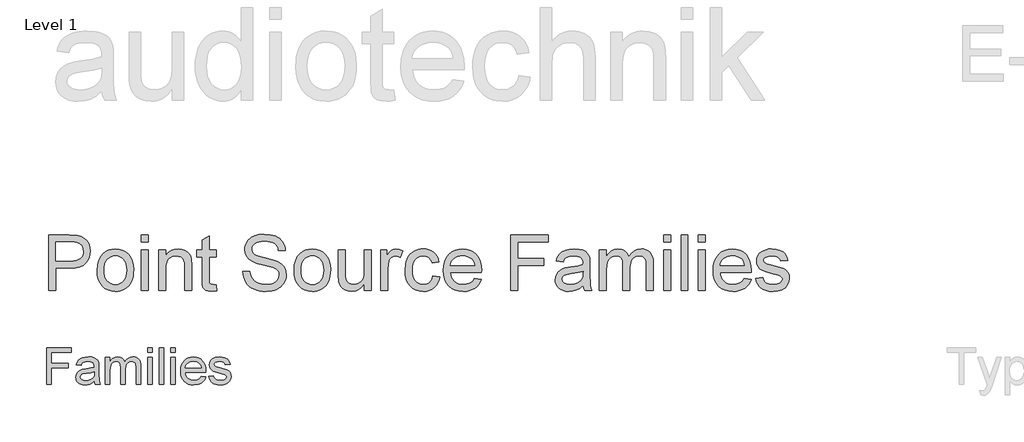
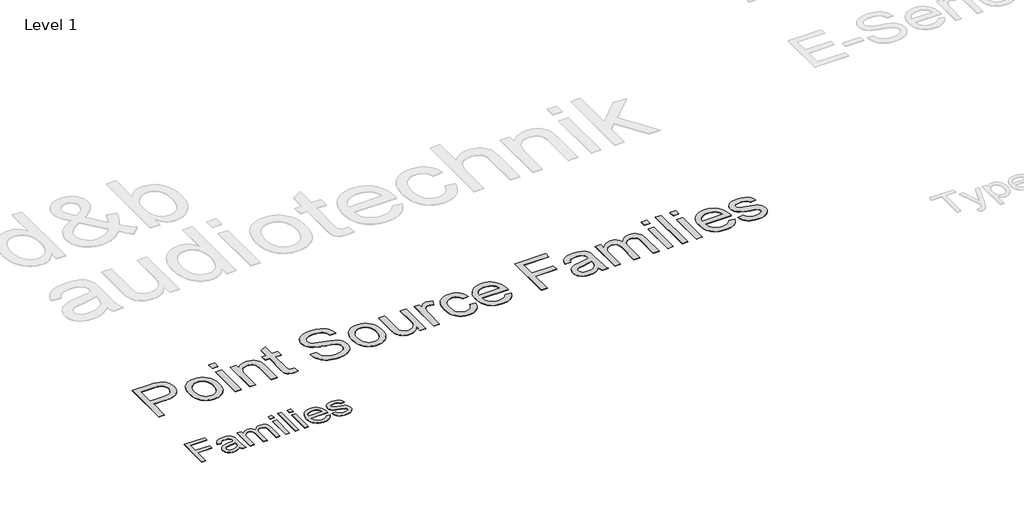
# One storey, part 4 of 6: 2 proxies.
"""IFC4 building model written with IfcOpenShell, lengths in millimetres."""

from ifc_helpers import new_model, si_unit, origin, origin_with_axes, place, context, project, spatial, polyline, outline, extrude, element, save

model = new_model("IFC4")

# Units and contexts
model_context = context("Model", 3, world=origin())
ifc_project = project(units=[si_unit("LENGTHUNIT", "METRE", prefix="MILLI")], contexts=[model_context])

# Site, building, storey
site = spatial("IfcSite", under=ifc_project)
building = spatial("IfcBuilding", under=site)
storey = spatial("IfcBuildingStorey", under=building, Name="Level 1", Elevation=0.0)

# Proxies
placement = place(None, origin())
element("IfcBuildingElementProxy", 1, Name="400mm Arial", ObjectType="400mm Arial", at=placement, inside=storey, context=model_context, shape_type="SweptSolid", body=[
    extrude(outline(polyline([(-21056.720891, 17351.3054836), (-21056.720891, 17743.0630593), (-20793.5087698, 17743.0630593), (-20793.5087698, 17694.0933624), (-21007.7511941, 17694.0933624), (-21007.7511941, 17577.7903321), (-20824.1148304, 17577.7903321), (-20824.1148304, 17528.8206351), (-21007.7511941, 17528.8206351), (-21007.7511941, 17351.3054836), (-21056.720891, 17351.3054836)])), origin_with_axes(), (0.0, 0.0, 1.0), 5.0),
    extrude(outline(polyline([(-20548.660285, 17388.0327563), (-20572.0571836, 17367.97144), (-20596.1475009, 17354.8443093), (-20621.4811893, 17347.5992809), (-20648.6082016, 17345.1842715), (-20670.4120309, 17346.6368638), (-20689.5318522, 17350.9946408), (-20705.9676654, 17358.2576024), (-20719.7194706, 17368.4257487), (-20730.5780466, 17380.8534831), (-20738.3341723, 17394.895209), (-20742.9878477, 17410.5509263), (-20744.5390729, 17427.8206351), (-20742.1957963, 17448.1210612), (-20735.1659668, 17466.5564305), (-20724.3223352, 17482.3376805), (-20710.5376524, 17494.6757487), (-20676.2493001, 17510.7439305), (-20633.879035, 17518.1085139), (-20583.8094327, 17525.855673), (-20548.9472168, 17534.9418472), (-20548.660285, 17545.8452563), (-20552.0317338, 17567.6998965), (-20562.1460804, 17581.9986654), (-20584.7658721, 17592.6151427), (-20616.2805501, 17596.1539684), (-20645.4519516, 17593.7987364), (-20665.8241107, 17586.7330404), (-20679.7163929, 17573.6656872), (-20689.4481638, 17553.3054836), (-20738.4178607, 17559.4266957), (-20729.9175056, 17586.2069987), (-20717.2327282, 17607.2486654), (-20699.1799346, 17623.3407582), (-20674.5755312, 17635.2723396), (-20644.4835568, 17642.660834), (-20609.9680501, 17645.1236654), (-20576.8632916, 17642.9477658), (-20550.6209857, 17636.4200669), (-20530.8346458, 17626.6046076), (-20517.097785, 17614.5654268), (-20507.9876997, 17599.6808387), (-20502.0816865, 17581.3291578), (-20499.690588, 17538.480673), (-20499.690588, 17477.5554836), (-20497.2038456, 17392.4801995), (-20487.4481638, 17351.3054836), (-20536.4178607, 17351.3054836), (-20544.2606638, 17368.3301048), (-20548.660285, 17388.0327563)]), holes=[polyline([(-20548.660285, 17485.9721502), (-20581.5618001, 17477.8185044), (-20627.6621789, 17470.9560518), (-20669.7933342, 17463.0176048), (-20680.7565208, 17457.5898112), (-20688.8743001, 17450.105673), (-20693.8956069, 17441.1390536), (-20695.5693759, 17431.2638169), (-20691.9229507, 17416.7020271), (-20680.9836751, 17404.7704457), (-20662.990659, 17396.8080877), (-20638.1830122, 17394.1539684), (-20611.8809289, 17397.0830641), (-20588.6394516, 17405.870351), (-20569.7975956, 17418.8181493), (-20556.6943759, 17434.228779), (-20550.8840066, 17450.105673), (-20548.9472168, 17472.103779), (-20548.660285, 17485.9721502)])]), origin_with_axes(), (0.0, 0.0, 1.0), 5.0),
    extrude(outline(polyline([(-20432.3572547, 17351.3054836), (-20432.3572547, 17639.0024533), (-20383.3875577, 17639.0024533), (-20383.3875577, 17591.6587033), (-20368.658391, 17613.405744), (-20349.720891, 17630.4423207), (-20327.2206543, 17641.4533292), (-20301.8032774, 17645.1236654), (-20274.5686657, 17641.3815963), (-20252.7379365, 17630.1553889), (-20236.4306448, 17612.1862838), (-20225.7663456, 17588.2155215), (-20207.9167954, 17613.1128344), (-20187.5565918, 17630.8966294), (-20164.6857348, 17641.5669064), (-20139.3042244, 17645.1236654), (-20119.7002057, 17643.6441732), (-20102.4932632, 17639.2056966), (-20087.683397, 17631.8082357), (-20075.2706069, 17621.4517904), (-20065.4581365, 17608.0168058), (-20058.4492291, 17591.3837269), (-20054.2438846, 17571.5525539), (-20052.8421032, 17548.5232866), (-20052.8421032, 17351.3054836), (-20101.8118001, 17351.3054836), (-20101.8118001, 17527.4816199), (-20106.3548872, 17568.369404), (-20112.7391202, 17579.6434334), (-20122.8056448, 17588.5024533), (-20135.7534431, 17594.2410896), (-20150.7814971, 17596.1539684), (-20177.3107348, 17591.2522165), (-20198.9382206, 17576.5469608), (-20207.3279874, 17565.2669537), (-20213.320678, 17551.03394), (-20218.1148304, 17513.7088927), (-20218.1148304, 17351.3054836), (-20267.0845274, 17351.3054836), (-20267.0845274, 17532.9333245), (-20269.9179791, 17560.6222449), (-20278.4183342, 17580.3727184), (-20293.3746552, 17592.2086559), (-20315.5760047, 17596.1539684), (-20334.4417717, 17593.5237601), (-20351.8250577, 17585.6331351), (-20366.1716486, 17572.6733813), (-20375.9273304, 17554.8357866), (-20381.5225009, 17530.0879173), (-20383.3875577, 17496.3973396), (-20383.3875577, 17351.3054836), (-20432.3572547, 17351.3054836)])), origin_with_axes(), (0.0, 0.0, 1.0), 5.0),
    extrude(outline(polyline([(-19979.3875577, 17351.3054836), (-19979.3875577, 17639.0024533), (-19930.4178607, 17639.0024533), (-19930.4178607, 17351.3054836), (-19979.3875577, 17351.3054836)])), origin_with_axes(), (0.0, 0.0, 1.0), 5.0),
    extrude(outline(polyline([(-19979.3875577, 17694.0933624), (-19979.3875577, 17743.0630593), (-19930.4178607, 17743.0630593), (-19930.4178607, 17694.0933624), (-19979.3875577, 17694.0933624)])), origin_with_axes(), (0.0, 0.0, 1.0), 5.0),
    extrude(outline(polyline([(-19856.9633153, 17351.3054836), (-19856.9633153, 17743.0630593), (-19807.9936183, 17743.0630593), (-19807.9936183, 17351.3054836), (-19856.9633153, 17351.3054836)])), origin_with_axes(), (0.0, 0.0, 1.0), 5.0),
    extrude(outline(polyline([(-19734.5390729, 17351.3054836), (-19734.5390729, 17639.0024533), (-19685.5693759, 17639.0024533), (-19685.5693759, 17351.3054836), (-19734.5390729, 17351.3054836)])), origin_with_axes(), (0.0, 0.0, 1.0), 5.0),
    extrude(outline(polyline([(-19734.5390729, 17694.0933624), (-19734.5390729, 17743.0630593), (-19685.5693759, 17743.0630593), (-19685.5693759, 17694.0933624), (-19734.5390729, 17694.0933624)])), origin_with_axes(), (0.0, 0.0, 1.0), 5.0),
    extrude(outline(polyline([(-19410.6886941, 17437.0024533), (-19362.6754365, 17430.8812411), (-19370.0370309, 17411.6508316), (-19379.975034, 17394.7039211), (-19392.4894457, 17380.0405096), (-19407.580266, 17367.6605972), (-19425.0920736, 17357.8272047), (-19444.8694469, 17350.8033529), (-19491.220891, 17345.1842715), (-19521.605775, 17347.6082475), (-19548.6789876, 17354.8801758), (-19572.4405288, 17367.0000563), (-19592.8903986, 17383.9678889), (-19609.3351784, 17405.3114317), (-19621.0814497, 17430.5584429), (-19628.1292125, 17459.7089223), (-19630.4784668, 17492.7628699), (-19628.1053015, 17526.937645), (-19620.9858058, 17557.0595082), (-19609.1199796, 17583.1284594), (-19592.5078229, 17605.1444987), (-19572.1117528, 17622.6353841), (-19548.8941865, 17635.1288737), (-19522.855124, 17642.6249675), (-19493.9945653, 17645.1236654), (-19466.0635461, 17642.6309452), (-19440.8045795, 17635.1527847), (-19418.2176654, 17622.6891839), (-19398.3028039, 17605.2401427), (-19382.0463231, 17583.2719253), (-19370.4345511, 17557.2507961), (-19363.4674879, 17527.1767549), (-19361.1451335, 17493.0498018), (-19361.4320653, 17479.8509381), (-19581.5087698, 17479.8509381), (-19578.6723292, 17460.3096858), (-19573.0323257, 17443.1953983), (-19564.5887592, 17428.5080759), (-19553.3416297, 17416.2477184), (-19524.9234242, 17399.6774059), (-19490.2644516, 17394.1539684), (-19464.2014782, 17396.7124438), (-19442.2511941, 17404.3878699), (-19424.4135994, 17417.6584665), (-19410.6886941, 17437.0024533)]), holes=[polyline([(-19581.5087698, 17528.8206351), (-19410.1148304, 17528.8206351), (-19416.7381732, 17554.6923207), (-19429.721838, 17573.199423), (-19443.076123, 17583.2420366), (-19458.2715539, 17590.4153321), (-19494.1858532, 17596.1539684), (-19527.1949677, 17591.5750148), (-19554.4893569, 17577.838154), (-19573.4627234, 17556.4258671), (-19581.5087698, 17528.8206351)])]), origin_with_axes(), (0.0, 0.0, 1.0), 5.0),
    extrude(outline(polyline([(-19330.5390729, 17437.0024533), (-19281.5693759, 17443.1236654), (-19273.8461278, 17422.1776427), (-19258.9017622, 17406.7789684), (-19236.6406354, 17397.3102184), (-19206.9671032, 17394.1539684), (-19177.6522357, 17397.0471976), (-19157.0409668, 17405.7268851), (-19144.8463645, 17418.3040631), (-19140.7814971, 17432.8897639), (-19144.8702755, 17445.371298), (-19157.1366107, 17454.8878699), (-19207.5409668, 17468.8518851), (-19281.2824441, 17492.8106919), (-19299.9449677, 17504.8498728), (-19313.4666297, 17520.7865442), (-19321.680053, 17539.6044893), (-19324.4178607, 17560.2874911), (-19322.2180501, 17579.2608576), (-19315.6186183, 17596.775654), (-19305.2173399, 17612.1384618), (-19291.6119895, 17624.6558624), (-19260.4798872, 17639.1459192), (-19218.3487319, 17645.1236654), (-19186.4753891, 17642.7206114), (-19158.7625577, 17635.5114495), (-19136.4775198, 17624.2015536), (-19120.8875577, 17609.496298), (-19110.5580122, 17590.3077326), (-19104.0542244, 17565.5479078), (-19153.0239213, 17559.4266957), (-19159.2049109, 17574.8373254), (-19171.4353797, 17586.4461086), (-19189.8348825, 17593.7270035), (-19214.5229744, 17596.1539684), (-19242.6422925, 17593.8346029), (-19261.3885047, 17586.8765063), (-19271.933249, 17576.8338927), (-19275.4481638, 17565.260976), (-19269.6138835, 17551.010029), (-19251.345891, 17540.2022639), (-19209.1669138, 17529.7770745), (-19137.2904933, 17506.7268851), (-19118.3051713, 17495.7039211), (-19103.9107585, 17480.6160896), (-19094.8365397, 17461.4155688), (-19091.8118001, 17438.0545366), (-19095.3625814, 17413.9044419), (-19106.0149251, 17391.1890063), (-19123.3623446, 17371.6895982), (-19146.9983532, 17357.1875858), (-19175.5480691, 17348.1851), (-19207.6366107, 17345.1842715), (-19233.9924938, 17346.630886), (-19257.0127944, 17350.9707298), (-19276.6975127, 17358.2038027), (-19293.0466486, 17368.3301048), (-19306.4009336, 17381.3018141), (-19317.1010994, 17397.0711086), (-19325.1471458, 17415.6379883), (-19330.5390729, 17437.0024533)])), origin_with_axes(), (0.0, 0.0, 1.0), 5.0),
])
element("IfcBuildingElementProxy", 2, Name="600mm Arial", ObjectType="600mm Arial", at=placement, inside=storey, context=model_context, shape_type="SweptSolid", body=[
    extrude(outline(polyline([(-21034.9539913, 18351.3054836), (-21034.9539913, 18942.0747143), (-20816.0116836, 18942.0747143), (-20765.0261067, 18940.6684643), (-20727.7424528, 18936.4497143), (-20688.3854817, 18925.938897), (-20655.9876451, 18908.829522), (-20629.8999047, 18884.346349), (-20609.473222, 18851.7141374), (-20596.2761067, 18813.2225509), (-20591.8770682, 18771.1612528), (-20594.8473206, 18734.8962288), (-20603.7580778, 18701.533849), (-20618.6093398, 18671.0741134), (-20639.4011067, 18643.517022), (-20667.9452773, 18620.674474), (-20706.0537509, 18604.3583682), (-20753.7265273, 18594.5687047), (-20810.9636067, 18591.3054836), (-20961.1078374, 18591.3054836), (-20961.1078374, 18351.3054836), (-21034.9539913, 18351.3054836)]), holes=[polyline([(-20961.1078374, 18665.1516374), (-20806.6366836, 18665.1516374), (-20771.1198567, 18666.846349), (-20741.1559143, 18671.9304836), (-20716.7448567, 18680.4040413), (-20697.8866836, 18692.267022), (-20683.8151692, 18707.2039211), (-20673.7640874, 18724.8992336), (-20667.7334384, 18745.3529595), (-20665.723222, 18768.565099), (-20670.4648086, 18801.7381759), (-20684.6895682, 18829.7189451), (-20706.630674, 18850.7766374), (-20734.521299, 18863.1804836), (-20763.0068759, 18866.9665413), (-20808.3674528, 18868.2285605), (-20961.1078374, 18868.2285605), (-20961.1078374, 18665.1516374)])]), origin_with_axes(), (0.0, 0.0, 1.0), 5.0),
    extrude(outline(polyline([(-20518.0309143, 18568.2285605), (-20514.0375249, 18624.4154595), (-20502.0573567, 18672.8319259), (-20482.0904095, 18713.4779595), (-20454.1366836, 18746.3535605), (-20425.9936547, 18767.3661807), (-20394.9299528, 18782.3751951), (-20360.9455778, 18791.3806038), (-20324.0405297, 18794.3824066), (-20283.2998446, 18790.7270581), (-20246.4624047, 18779.7610124), (-20213.52821, 18761.4842696), (-20184.4972605, 18735.8968297), (-20160.8028494, 18703.8640773), (-20143.8782701, 18666.251397), (-20133.7235225, 18623.0587889), (-20130.3386067, 18574.2862528), (-20131.8350009, 18534.7580076), (-20136.3241836, 18499.6828874), (-20143.8061547, 18469.0608922), (-20154.2809143, 18442.892022), (-20167.6177533, 18420.2883562), (-20183.6859624, 18400.361974), (-20202.4855417, 18383.1128754), (-20224.0164913, 18368.5410605), (-20247.4404696, 18356.9620341), (-20271.9191355, 18348.6913009), (-20297.4524889, 18343.728861), (-20324.0405297, 18342.0747143), (-20365.3761667, 18345.7165413), (-20402.5561547, 18356.642022), (-20435.5804937, 18374.8511566), (-20464.4491836, 18400.3439451), (-20487.8911908, 18432.6876951), (-20504.6354817, 18471.4497143), (-20514.6820562, 18516.6300028), (-20518.0309143, 18568.2285605)]), holes=[polyline([(-20444.1847605, 18568.3727913), (-20442.0483422, 18532.5539812), (-20435.6390874, 18501.5398586), (-20424.9569961, 18475.3304235), (-20410.0020682, 18453.9256759), (-20391.8109624, 18437.2985725), (-20371.4203374, 18425.4220701), (-20348.8301932, 18418.2961687), (-20324.0405297, 18415.9208682), (-20299.3770682, 18418.3096903), (-20276.8770682, 18425.4761566), (-20256.5405297, 18437.4202672), (-20238.3674528, 18454.142022), (-20223.4125249, 18475.7586086), (-20212.7304336, 18502.3872143), (-20206.3211788, 18534.0278393), (-20204.1847605, 18570.6804836), (-20206.3347004, 18605.3634764), (-20212.7845201, 18635.5663009), (-20223.5342196, 18661.2889571), (-20238.583799, 18682.5314451), (-20256.8244841, 18699.1585485), (-20277.1475009, 18711.0350509), (-20299.5528494, 18718.1609523), (-20324.0405297, 18720.5362528), (-20348.8301932, 18718.1699667), (-20371.4203374, 18711.0711086), (-20391.8109624, 18699.2396783), (-20410.0020682, 18682.6756759), (-20424.9569961, 18661.3340292), (-20435.6390874, 18635.1696663), (-20442.0483422, 18604.1825869), (-20444.1847605, 18568.3727913)])]), origin_with_axes(), (0.0, 0.0, 1.0), 5.0),
    extrude(outline(polyline([(-20047.2616836, 18868.2285605), (-20047.2616836, 18942.0747143), (-19973.4155297, 18942.0747143), (-19973.4155297, 18868.2285605), (-20047.2616836, 18868.2285605)])), origin_with_axes(), (0.0, 0.0, 1.0), 5.0),
    extrude(outline(polyline([(-20047.2616836, 18351.3054836), (-20047.2616836, 18785.1516374), (-19973.4155297, 18785.1516374), (-19973.4155297, 18351.3054836), (-20047.2616836, 18351.3054836)])), origin_with_axes(), (0.0, 0.0, 1.0), 5.0),
    extrude(outline(polyline([(-19862.646299, 18351.3054836), (-19862.646299, 18785.1516374), (-19788.8001451, 18785.1516374), (-19788.8001451, 18724.5747143), (-19763.145097, 18755.1155797), (-19732.333799, 18776.9304836), (-19696.3662509, 18790.0194259), (-19655.2424528, 18794.3824066), (-19618.8422124, 18790.8667816), (-19585.5068759, 18780.3199066), (-19557.7063951, 18764.0578874), (-19537.910722, 18743.3968297), (-19524.4792317, 18718.3908201), (-19515.771299, 18689.0939451), (-19511.8770682, 18617.6997143), (-19511.8770682, 18351.3054836), (-19585.723222, 18351.3054836), (-19585.723222, 18607.7477913), (-19587.8506259, 18645.9328874), (-19594.2328374, 18673.0843297), (-19606.005674, 18692.5374547), (-19624.3049528, 18707.627599), (-19647.7604817, 18717.3090893), (-19675.0020682, 18720.5362528), (-19697.4254456, 18718.7243538), (-19718.2532701, 18713.2886566), (-19737.4855417, 18704.2291615), (-19755.1222605, 18691.5458682), (-19769.856335, 18673.7964691), (-19780.380674, 18649.5386566), (-19786.6952773, 18618.7724307), (-19788.8001451, 18581.4977913), (-19788.8001451, 18351.3054836), (-19862.646299, 18351.3054836)])), origin_with_axes(), (0.0, 0.0, 1.0), 5.0),
    extrude(outline(polyline([(-19253.4155297, 18412.892022), (-19244.1847605, 18349.142022), (-19299.4251451, 18342.0747143), (-19334.8698567, 18345.1396182), (-19361.3001451, 18354.3343297), (-19379.9780297, 18368.5050028), (-19392.1655297, 18386.4977913), (-19398.8722605, 18417.3992336), (-19401.1078374, 18470.2958682), (-19401.1078374, 18711.3054836), (-19456.4924528, 18711.3054836), (-19456.4924528, 18785.1516374), (-19401.1078374, 18785.1516374), (-19401.1078374, 18890.5843297), (-19327.2616836, 18933.9977913), (-19327.2616836, 18785.1516374), (-19253.4155297, 18785.1516374), (-19253.4155297, 18711.3054836), (-19327.2616836, 18711.3054836), (-19327.2616836, 18472.4593297), (-19323.3674528, 18434.3824066), (-19310.7472605, 18420.8968297), (-19300.0922124, 18417.1648586), (-19285.5789913, 18415.9208682), (-19253.4155297, 18412.892022)])), origin_with_axes(), (0.0, 0.0, 1.0), 5.0),
    extrude(outline(polyline([(-18967.2616836, 18554.3824066), (-18893.4155297, 18554.3824066), (-18884.941972, 18513.4028393), (-18869.6174528, 18480.4641374), (-18845.7112028, 18454.3223105), (-18811.4924528, 18433.7333682), (-18769.6655297, 18420.3739932), (-18722.9347605, 18415.9208682), (-18681.7929336, 18419.2922624), (-18645.771299, 18429.4064451), (-18616.582597, 18445.4160605), (-18595.9395682, 18466.4737528), (-18583.661924, 18490.6504355), (-18579.5693759, 18516.017022), (-18582.6342797, 18540.7345701), (-18591.8289913, 18562.0987528), (-18610.5068759, 18580.3259163), (-18642.021299, 18595.6324066), (-18749.5453374, 18623.829522), (-18820.1282701, 18642.4893778), (-18865.2905297, 18660.2477913), (-18902.051347, 18685.0915413), (-18928.1030297, 18715.1997143), (-18943.6258663, 18749.923272), (-18948.8001451, 18788.6131759), (-18947.200085, 18810.603861), (-18942.3999047, 18831.8643778), (-18934.3996042, 18852.3947264), (-18923.1991836, 18872.1949066), (-18908.9248446, 18890.4581278), (-18891.7027893, 18906.377599), (-18871.5330177, 18919.9533201), (-18848.4155297, 18931.1852913), (-18796.4563951, 18946.2754355), (-18738.9443759, 18951.3054836), (-18676.6366836, 18946.0410605), (-18622.1174528, 18930.2477913), (-18598.2652893, 18918.4839691), (-18577.333799, 18904.2501951), (-18559.3229817, 18887.5464691), (-18544.2328374, 18868.3727913), (-18532.1805538, 18847.2880557), (-18523.2833182, 18824.8511566), (-18517.5411307, 18801.0620941), (-18514.9539913, 18775.9208682), (-18588.8001451, 18775.9208682), (-18593.740049, 18799.4845701), (-18602.3578374, 18819.9833682), (-18614.6535105, 18837.4172624), (-18630.6270682, 18851.7862528), (-18650.5759865, 18863.018224), (-18674.7977413, 18871.0410605), (-18703.2923326, 18875.8547624), (-18736.0597605, 18877.4593297), (-18769.8728615, 18875.8727913), (-18798.7640874, 18871.1131759), (-18822.7334384, 18863.1804836), (-18841.7809143, 18852.0747143), (-18856.2941355, 18838.7243538), (-18866.660722, 18824.0578874), (-18872.880674, 18808.0753153), (-18874.9539913, 18790.7766374), (-18869.0765874, 18762.3992336), (-18851.4443759, 18739.5747143), (-18835.254472, 18729.424474), (-18809.7616836, 18719.1660605), (-18730.8674528, 18698.3247143), (-18649.4491836, 18678.5290413), (-18600.1943759, 18661.2574066), (-18558.0970201, 18634.4665413), (-18541.8214792, 18618.7183441), (-18528.7280297, 18601.4016374), (-18518.6634264, 18582.6065653), (-18511.474424, 18562.423272), (-18505.723222, 18517.892022), (-18507.3773687, 18494.7925629), (-18512.3398086, 18472.3691855), (-18520.6105417, 18450.6218898), (-18532.1895682, 18429.5506759), (-18546.8740634, 18409.971349), (-18564.4612028, 18392.6997143), (-18584.9509865, 18377.735772), (-18608.3434143, 18365.079522), (-18633.9578975, 18355.0149187), (-18661.113847, 18347.8259163), (-18720.0501451, 18342.0747143), (-18757.825085, 18343.6251951), (-18792.3999047, 18348.2766374), (-18823.7746042, 18356.0290413), (-18851.9491836, 18366.8824066), (-18877.0949167, 18380.8547624), (-18899.3830778, 18397.9641374), (-18918.8136667, 18418.2105316), (-18935.3866836, 18441.5939451), (-18948.7370442, 18467.3571663), (-18958.4996643, 18494.7429836), (-18964.6745442, 18523.751397), (-18967.2616836, 18554.3824066)])), origin_with_axes(), (0.0, 0.0, 1.0), 5.0),
    extrude(outline(polyline([(-18422.646299, 18568.2285605), (-18418.6529095, 18624.4154595), (-18406.6727413, 18672.8319259), (-18386.7057942, 18713.4779595), (-18358.7520682, 18746.3535605), (-18330.6090393, 18767.3661807), (-18299.5453374, 18782.3751951), (-18265.5609624, 18791.3806038), (-18228.6559143, 18794.3824066), (-18187.9152292, 18790.7270581), (-18151.0777893, 18779.7610124), (-18118.1435946, 18761.4842696), (-18089.1126451, 18735.8968297), (-18065.4182341, 18703.8640773), (-18048.4936547, 18666.251397), (-18038.3389071, 18623.0587889), (-18034.9539913, 18574.2862528), (-18036.4503855, 18534.7580076), (-18040.9395682, 18499.6828874), (-18048.4215393, 18469.0608922), (-18058.896299, 18442.892022), (-18072.2331379, 18420.2883562), (-18088.301347, 18400.361974), (-18107.1009264, 18383.1128754), (-18128.6318759, 18368.5410605), (-18152.0558542, 18356.9620341), (-18176.5345201, 18348.6913009), (-18202.0678735, 18343.728861), (-18228.6559143, 18342.0747143), (-18269.9915514, 18345.7165413), (-18307.1715393, 18356.642022), (-18340.1958783, 18374.8511566), (-18369.0645682, 18400.3439451), (-18392.5065754, 18432.6876951), (-18409.2508663, 18471.4497143), (-18419.2974408, 18516.6300028), (-18422.646299, 18568.2285605)]), holes=[polyline([(-18348.8001451, 18568.3727913), (-18346.6637268, 18532.5539812), (-18340.254472, 18501.5398586), (-18329.5723807, 18475.3304235), (-18314.6174528, 18453.9256759), (-18296.426347, 18437.2985725), (-18276.035722, 18425.4220701), (-18253.4455778, 18418.2961687), (-18228.6559143, 18415.9208682), (-18203.9924528, 18418.3096903), (-18181.4924528, 18425.4761566), (-18161.1559143, 18437.4202672), (-18142.9828374, 18454.142022), (-18128.0279095, 18475.7586086), (-18117.3458182, 18502.3872143), (-18110.9365634, 18534.0278393), (-18108.8001451, 18570.6804836), (-18110.950085, 18605.3634764), (-18117.3999047, 18635.5663009), (-18128.1496042, 18661.2889571), (-18143.1991836, 18682.5314451), (-18161.4398687, 18699.1585485), (-18181.7628855, 18711.0350509), (-18204.1682341, 18718.1609523), (-18228.6559143, 18720.5362528), (-18253.4455778, 18718.1699667), (-18276.035722, 18711.0711086), (-18296.426347, 18699.2396783), (-18314.6174528, 18682.6756759), (-18329.5723807, 18661.3340292), (-18340.254472, 18635.1696663), (-18346.6637268, 18604.1825869), (-18348.8001451, 18568.3727913)])]), origin_with_axes(), (0.0, 0.0, 1.0), 5.0),
    extrude(outline(polyline([(-17674.9539913, 18351.3054836), (-17674.9539913, 18425.8727913), (-17701.6727413, 18389.2111326), (-17732.7905297, 18363.0242336), (-17768.3073567, 18347.3120941), (-17808.223222, 18342.0747143), (-17844.1907701, 18345.752599), (-17877.6703374, 18356.7862528), (-17905.7592797, 18373.3727913), (-17925.5549528, 18393.7093297), (-17938.8782701, 18418.408849), (-17947.5501451, 18448.0843297), (-17951.8770682, 18516.7381759), (-17951.8770682, 18785.1516374), (-17878.0309143, 18785.1516374), (-17878.0309143, 18551.4977913), (-17876.9131259, 18504.767022), (-17873.5597605, 18476.2093297), (-17862.7965393, 18451.095147), (-17844.3530297, 18432.002599), (-17819.4551932, 18419.9413009), (-17789.3289913, 18415.9208682), (-17757.4720201, 18420.0314451), (-17727.6703374, 18432.3631759), (-17703.0970201, 18451.7802432), (-17686.9251451, 18477.1468297), (-17677.9467797, 18511.8884163), (-17674.9539913, 18559.4304836), (-17674.9539913, 18785.1516374), (-17601.1078374, 18785.1516374), (-17601.1078374, 18351.3054836), (-17674.9539913, 18351.3054836)])), origin_with_axes(), (0.0, 0.0, 1.0), 5.0),
    extrude(outline(polyline([(-17499.5693759, 18351.3054836), (-17499.5693759, 18785.1516374), (-17434.9539913, 18785.1516374), (-17434.9539913, 18720.9689451), (-17411.083799, 18758.1804836), (-17389.0886067, 18780.1035605), (-17367.021299, 18790.8126951), (-17342.9347605, 18794.3824066), (-17306.1559143, 18788.6852913), (-17268.8001451, 18771.5939451), (-17293.4636067, 18705.392022), (-17319.4251451, 18716.7501951), (-17345.3866836, 18720.5362528), (-17367.4359624, 18716.8944259), (-17387.1414913, 18705.9689451), (-17403.0609624, 18688.5891374), (-17413.7520682, 18665.5843297), (-17422.7304336, 18624.3343297), (-17425.723222, 18579.3343297), (-17425.723222, 18351.3054836), (-17499.5693759, 18351.3054836)])), origin_with_axes(), (0.0, 0.0, 1.0), 5.0),
    extrude(outline(polyline([(-16945.723222, 18508.2285605), (-16871.8770682, 18498.9977913), (-16879.9089192, 18464.1525389), (-16892.4660105, 18433.3187047), (-16909.5483422, 18406.4962889), (-16931.1559143, 18383.6852913), (-16956.3782701, 18365.4806639), (-16984.3049528, 18352.4773586), (-17014.9359624, 18344.6753754), (-17048.271299, 18342.0747143), (-17089.6880658, 18345.7030196), (-17126.8229817, 18356.5879355), (-17159.6760466, 18374.7294619), (-17188.2472605, 18400.127599), (-17211.3737629, 18432.3045821), (-17227.8926932, 18470.782647), (-17237.8040514, 18515.5617937), (-17241.1078374, 18566.642022), (-17235.4648086, 18632.3571663), (-17228.4110225, 18661.9289812), (-17218.535722, 18689.3102913), (-17205.771299, 18713.9512167), (-17190.0501451, 18735.3018778), (-17171.3722605, 18753.3622744), (-17149.7376451, 18768.1324066), (-17126.1243639, 18779.6167816), (-17101.5104817, 18787.8199066), (-17075.8959985, 18792.7417816), (-17049.2809143, 18794.3824066), (-17016.5179937, 18792.1288009), (-16986.8830778, 18785.3679836), (-16960.3761667, 18774.0999547), (-16936.9972605, 18758.3247143), (-16917.1429937, 18738.4028393), (-16901.2100009, 18714.6949066), (-16889.1982821, 18687.2009163), (-16881.1078374, 18655.9208682), (-16954.9539913, 18646.690099), (-16968.349424, 18678.907647), (-16989.208799, 18702.002599), (-17016.3782701, 18715.9028393), (-17048.7039913, 18720.5362528), (-17073.7956379, 18718.2556038), (-17096.426347, 18711.4136566), (-17116.5961187, 18700.0104115), (-17134.3049528, 18684.0458682), (-17148.7235225, 18663.1504355), (-17159.0225009, 18636.954522), (-17165.2018879, 18605.4581278), (-17167.2616836, 18568.6612528), (-17165.24696, 18531.3099908), (-17159.2027893, 18499.4485124), (-17149.1291716, 18473.0768177), (-17135.0261067, 18452.1949066), (-17117.668835, 18436.3250148), (-17097.832597, 18424.9893778), (-17075.5173927, 18418.1879956), (-17050.723222, 18415.9208682), (-17012.4840393, 18421.5819259), (-16995.9470802, 18428.658248), (-16981.1318759, 18438.565099), (-16968.4530898, 18451.4106518), (-16958.3253855, 18467.3030797), (-16950.7487629, 18486.2423826), (-16945.723222, 18508.2285605)])), origin_with_axes(), (0.0, 0.0, 1.0), 5.0),
    extrude(outline(polyline([(-16503.5116836, 18480.5362528), (-16431.1078374, 18471.3054836), (-16442.2090994, 18442.3060845), (-16457.1955778, 18416.7501951), (-16476.0672725, 18394.6378153), (-16498.8241836, 18375.9689451), (-16525.231936, 18361.1402191), (-16555.0561547, 18350.548272), (-16588.2968398, 18344.1931038), (-16624.9539913, 18342.0747143), (-16670.7743038, 18345.7300629), (-16711.6006259, 18356.6961086), (-16747.4329576, 18374.9728514), (-16778.271299, 18400.5602913), (-16803.0699768, 18432.7462889), (-16820.7833182, 18470.8187047), (-16831.411323, 18514.7775389), (-16834.9539913, 18564.6227913), (-16831.3752653, 18616.158248), (-16820.6390874, 18661.5819259), (-16802.7454576, 18700.8938249), (-16777.6943759, 18734.0939451), (-16746.9371643, 18760.470147), (-16711.9251451, 18779.3102913), (-16672.6583182, 18790.6143778), (-16629.1366836, 18794.3824066), (-16587.0167917, 18790.6233922), (-16548.926347, 18779.346349), (-16514.8653494, 18760.5512768), (-16484.833799, 18734.2381759), (-16460.3190754, 18701.1101711), (-16442.8085586, 18661.8703874), (-16432.3022485, 18616.5188249), (-16428.8001451, 18565.0554836), (-16429.2328374, 18545.1516374), (-16761.1078374, 18545.1516374), (-16756.8304937, 18515.6834884), (-16748.3253855, 18489.8751951), (-16735.5925129, 18467.7267576), (-16718.6318759, 18449.2381759), (-16698.3809744, 18434.6618538), (-16675.7773086, 18424.2501951), (-16650.8208783, 18418.0031999), (-16623.5116836, 18415.9208682), (-16584.208799, 18419.7790413), (-16551.1078374, 18431.3535605), (-16524.208799, 18451.3655797), (-16503.5116836, 18480.5362528)]), holes=[polyline([(-16761.1078374, 18618.9977913), (-16502.646299, 18618.9977913), (-16512.6342797, 18658.0122143), (-16521.2250249, 18673.3547624), (-16532.2136067, 18685.9208682), (-16552.3518278, 18701.065099), (-16575.2664913, 18711.8824066), (-16600.957597, 18718.3727913), (-16629.4251451, 18720.5362528), (-16655.3911908, 18718.8099908), (-16679.2027893, 18713.6312047), (-16700.8599408, 18704.9998946), (-16720.3626451, 18692.9160605), (-16736.7283302, 18677.9385966), (-16748.974424, 18660.626397), (-16757.1009264, 18640.9794619), (-16761.1078374, 18618.9977913)])]), origin_with_axes(), (0.0, 0.0, 1.0), 5.0),
    extrude(outline(polyline([(-16114.9539913, 18351.3054836), (-16114.9539913, 18942.0747143), (-15718.0309143, 18942.0747143), (-15718.0309143, 18868.2285605), (-16041.1078374, 18868.2285605), (-16041.1078374, 18692.8439451), (-15764.1847605, 18692.8439451), (-15764.1847605, 18618.9977913), (-16041.1078374, 18618.9977913), (-16041.1078374, 18351.3054836), (-16114.9539913, 18351.3054836)])), origin_with_axes(), (0.0, 0.0, 1.0), 5.0),
    extrude(outline(polyline([(-15348.8001451, 18406.690099), (-15384.082597, 18376.4376951), (-15420.410722, 18356.642022), (-15458.613847, 18345.7165413), (-15499.521299, 18342.0747143), (-15532.4014071, 18344.2652191), (-15561.2340393, 18350.8367336), (-15586.0191956, 18361.7892576), (-15606.7568759, 18377.1227913), (-15623.1315754, 18395.8637768), (-15634.8277893, 18417.0386566), (-15641.8455177, 18440.6474307), (-15644.1847605, 18466.690099), (-15640.6511067, 18497.3030797), (-15630.0501451, 18525.1035605), (-15613.6979817, 18548.9016374), (-15592.910722, 18567.5074066), (-15568.4816355, 18581.5699066), (-15541.2039913, 18591.7381759), (-15477.3097605, 18602.8439451), (-15401.8049528, 18614.5266374), (-15349.2328374, 18628.2285605), (-15348.8001451, 18644.6708682), (-15353.8842797, 18677.627599), (-15360.239448, 18689.8331278), (-15369.1366836, 18699.190099), (-15384.5152893, 18708.5290413), (-15403.2472605, 18715.1997143), (-15450.771299, 18720.5362528), (-15494.7616836, 18716.9845701), (-15525.4828374, 18706.329522), (-15546.4323567, 18686.6239932), (-15561.1078374, 18655.9208682), (-15634.9539913, 18665.1516374), (-15622.1354817, 18705.5362528), (-15603.0068759, 18737.267022), (-15575.7833182, 18761.533849), (-15538.6799528, 18779.5266374), (-15493.301347, 18790.6684643), (-15441.2520682, 18794.3824066), (-15391.3301932, 18791.1011566), (-15351.7568759, 18781.2574066), (-15321.9191355, 18766.455724), (-15301.2039913, 18748.3006759), (-15287.4660105, 18725.8547624), (-15278.5597605, 18698.1804836), (-15274.9539913, 18633.565099), (-15274.9539913, 18541.690099), (-15271.2039913, 18413.3968297), (-15265.6511067, 18381.6840893), (-15256.4924528, 18351.3054836), (-15330.3386067, 18351.3054836), (-15342.1655297, 18376.9785605), (-15348.8001451, 18406.690099)]), holes=[polyline([(-15348.8001451, 18554.3824066), (-15398.4155297, 18542.0867336), (-15467.9347605, 18531.7381759), (-15531.4684143, 18519.767022), (-15548.0008663, 18511.5819259), (-15560.2424528, 18500.2958682), (-15567.8145682, 18486.7742336), (-15570.3386067, 18471.8824066), (-15564.8398086, 18449.923272), (-15548.3434143, 18431.9304836), (-15521.2100009, 18419.923272), (-15483.8001451, 18415.9208682), (-15444.1366836, 18420.3379355), (-15409.0886067, 18433.5891374), (-15380.6751451, 18453.1143778), (-15360.9155297, 18476.3535605), (-15352.1535105, 18500.2958682), (-15349.2328374, 18533.4689451), (-15348.8001451, 18554.3824066)])]), origin_with_axes(), (0.0, 0.0, 1.0), 5.0),
    extrude(outline(polyline([(-15173.4155297, 18351.3054836), (-15173.4155297, 18785.1516374), (-15099.5693759, 18785.1516374), (-15099.5693759, 18713.7574066), (-15077.3578374, 18746.5518778), (-15048.8001451, 18772.2429836), (-15014.8698567, 18788.8475509), (-14976.5405297, 18794.3824066), (-14935.4708182, 18788.7393778), (-14917.9918518, 18781.6855917), (-14902.5501451, 18771.8102913), (-14877.958799, 18744.7129355), (-14861.8770682, 18708.565099), (-14834.9600009, 18746.1101711), (-14804.2568759, 18772.9280797), (-14769.7676932, 18789.0188249), (-14731.4924528, 18794.3824066), (-14701.9296523, 18792.1513369), (-14675.9816355, 18785.4581278), (-14653.6484023, 18774.3027792), (-14634.9299528, 18758.6852913), (-14620.1327773, 18738.4253754), (-14609.5633663, 18713.3427432), (-14603.2217196, 18683.4373946), (-14601.1078374, 18648.7093297), (-14601.1078374, 18351.3054836), (-14674.9539913, 18351.3054836), (-14674.9539913, 18616.9785605), (-14676.6667317, 18653.8114932), (-14681.8049528, 18678.6372143), (-14691.4323567, 18695.6384163), (-14706.6126451, 18708.9977913), (-14726.1378855, 18717.6516374), (-14748.8001451, 18720.5362528), (-14769.7271283, 18718.6882961), (-14788.8061547, 18713.1444259), (-14806.0372244, 18703.9046422), (-14821.4203374, 18690.9689451), (-14834.0720802, 18673.9587288), (-14843.1090393, 18652.4953874), (-14848.5312148, 18626.5789211), (-14850.3386067, 18596.2093297), (-14850.3386067, 18351.3054836), (-14924.1847605, 18351.3054836), (-14924.1847605, 18625.1997143), (-14928.457597, 18666.954522), (-14941.2761067, 18696.7381759), (-14951.1874648, 18707.1498345), (-14963.8301932, 18714.5867336), (-14979.2042917, 18719.048873), (-14997.3097605, 18720.5362528), (-15025.7592797, 18716.5699066), (-15051.973222, 18704.6708682), (-15073.6078374, 18685.127599), (-15088.3193759, 18658.2285605), (-15096.7568759, 18620.908849), (-15099.5693759, 18570.1035605), (-15099.5693759, 18351.3054836), (-15173.4155297, 18351.3054836)])), origin_with_axes(), (0.0, 0.0, 1.0), 5.0),
    extrude(outline(polyline([(-14490.3386067, 18868.2285605), (-14490.3386067, 18942.0747143), (-14416.4924528, 18942.0747143), (-14416.4924528, 18868.2285605), (-14490.3386067, 18868.2285605)])), origin_with_axes(), (0.0, 0.0, 1.0), 5.0),
    extrude(outline(polyline([(-14490.3386067, 18351.3054836), (-14490.3386067, 18785.1516374), (-14416.4924528, 18785.1516374), (-14416.4924528, 18351.3054836), (-14490.3386067, 18351.3054836)])), origin_with_axes(), (0.0, 0.0, 1.0), 5.0),
    extrude(outline(polyline([(-14305.723222, 18351.3054836), (-14305.723222, 18942.0747143), (-14231.8770682, 18942.0747143), (-14231.8770682, 18351.3054836), (-14305.723222, 18351.3054836)])), origin_with_axes(), (0.0, 0.0, 1.0), 5.0),
    extrude(outline(polyline([(-14121.1078374, 18351.3054836), (-14121.1078374, 18785.1516374), (-14047.2616836, 18785.1516374), (-14047.2616836, 18351.3054836), (-14121.1078374, 18351.3054836)])), origin_with_axes(), (0.0, 0.0, 1.0), 5.0),
    extrude(outline(polyline([(-14121.1078374, 18868.2285605), (-14121.1078374, 18942.0747143), (-14047.2616836, 18942.0747143), (-14047.2616836, 18868.2285605), (-14121.1078374, 18868.2285605)])), origin_with_axes(), (0.0, 0.0, 1.0), 5.0),
    extrude(outline(polyline([(-13632.7424528, 18480.5362528), (-13560.3386067, 18471.3054836), (-13571.4398687, 18442.3060845), (-13586.426347, 18416.7501951), (-13605.2980417, 18394.6378153), (-13628.0549528, 18375.9689451), (-13654.4627052, 18361.1402191), (-13684.286924, 18350.548272), (-13717.5276091, 18344.1931038), (-13754.1847605, 18342.0747143), (-13800.005073, 18345.7300629), (-13840.8313951, 18356.6961086), (-13876.6637268, 18374.9728514), (-13907.5020682, 18400.5602913), (-13932.3007461, 18432.7462889), (-13950.0140874, 18470.8187047), (-13960.6420922, 18514.7775389), (-13964.1847605, 18564.6227913), (-13960.6060345, 18616.158248), (-13949.8698567, 18661.5819259), (-13931.9762268, 18700.8938249), (-13906.9251451, 18734.0939451), (-13876.1679336, 18760.470147), (-13841.1559143, 18779.3102913), (-13801.8890874, 18790.6143778), (-13758.3674528, 18794.3824066), (-13716.247561, 18790.6233922), (-13678.1571163, 18779.346349), (-13644.0961187, 18760.5512768), (-13614.0645682, 18734.2381759), (-13589.5498446, 18701.1101711), (-13572.0393278, 18661.8703874), (-13561.5330177, 18616.5188249), (-13558.0309143, 18565.0554836), (-13558.4636067, 18545.1516374), (-13890.3386067, 18545.1516374), (-13886.0612629, 18515.6834884), (-13877.5561547, 18489.8751951), (-13864.8232821, 18467.7267576), (-13847.8626451, 18449.2381759), (-13827.6117437, 18434.6618538), (-13805.0080778, 18424.2501951), (-13780.0516475, 18418.0031999), (-13752.7424528, 18415.9208682), (-13713.4395682, 18419.7790413), (-13680.3386067, 18431.3535605), (-13653.4395682, 18451.3655797), (-13632.7424528, 18480.5362528)]), holes=[polyline([(-13890.3386067, 18618.9977913), (-13631.8770682, 18618.9977913), (-13641.865049, 18658.0122143), (-13650.4557942, 18673.3547624), (-13661.4443759, 18685.9208682), (-13681.582597, 18701.065099), (-13704.4972605, 18711.8824066), (-13730.1883663, 18718.3727913), (-13758.6559143, 18720.5362528), (-13784.62196, 18718.8099908), (-13808.4335586, 18713.6312047), (-13830.09071, 18704.9998946), (-13849.5934143, 18692.9160605), (-13865.9590994, 18677.9385966), (-13878.2051932, 18660.626397), (-13886.3316956, 18640.9794619), (-13890.3386067, 18618.9977913)])]), origin_with_axes(), (0.0, 0.0, 1.0), 5.0),
    extrude(outline(polyline([(-13511.8770682, 18480.5362528), (-13438.0309143, 18489.767022), (-13433.5687749, 18472.9280797), (-13426.3842797, 18458.1804836), (-13416.4774288, 18445.5242336), (-13403.848222, 18434.9593297), (-13388.4606018, 18426.6300028), (-13370.2785105, 18420.6804836), (-13325.5309143, 18415.9208682), (-13281.3241836, 18420.283849), (-13264.1426932, 18425.7375749), (-13250.2424528, 18433.3727913), (-13231.8530297, 18452.3391374), (-13225.723222, 18474.3343297), (-13227.2646884, 18484.3042816), (-13231.8890874, 18493.1564451), (-13250.3866836, 18507.5074066), (-13278.0429336, 18516.8824066), (-13326.396299, 18528.565099), (-13393.7881259, 18548.0542816), (-13437.598222, 18564.6949066), (-13465.7412509, 18582.8499547), (-13486.1318759, 18606.8824066), (-13498.5176932, 18635.2598105), (-13502.646299, 18666.4497143), (-13499.3289913, 18695.0614932), (-13489.3770682, 18721.4737528), (-13473.691972, 18744.6408201), (-13453.1751451, 18763.517022), (-13432.7845201, 18775.3980316), (-13406.2280297, 18785.3679836), (-13375.5249047, 18792.1288009), (-13342.6943759, 18794.3824066), (-13294.629472, 18790.7586086), (-13252.8386067, 18779.8872143), (-13219.2328374, 18762.8319259), (-13195.723222, 18740.6564451), (-13180.146299, 18711.720147), (-13170.3386067, 18674.3824066), (-13244.1847605, 18665.1516374), (-13253.505674, 18688.3908201), (-13271.9491836, 18705.8968297), (-13299.6955778, 18716.876397), (-13336.9251451, 18720.5362528), (-13379.3289913, 18717.0386566), (-13407.598222, 18706.5458682), (-13423.4996643, 18691.4016374), (-13428.8001451, 18673.9497143), (-13426.6006259, 18662.5915413), (-13420.0020682, 18652.4593297), (-13408.7160105, 18643.408849), (-13392.4539913, 18636.1612528), (-13328.848222, 18620.440099), (-13220.458799, 18585.6804836), (-13191.8289913, 18569.0578874), (-13170.1222605, 18546.3054836), (-13156.4383663, 18517.3511566), (-13151.8770682, 18482.1227913), (-13157.2316355, 18445.704522), (-13173.2953374, 18411.4497143), (-13199.4551932, 18382.0446663), (-13235.098222, 18360.1756759), (-13278.1511067, 18346.5999547), (-13326.5405297, 18342.0747143), (-13366.2851211, 18344.2562047), (-13400.9996643, 18350.8006759), (-13430.6841595, 18361.7081278), (-13455.3386067, 18376.9785605), (-13475.4768278, 18396.5398586), (-13491.6126451, 18420.3199066), (-13503.7460586, 18448.3187047), (-13511.8770682, 18480.5362528)])), origin_with_axes(), (0.0, 0.0, 1.0), 5.0),
])

save(model, "model.ifc")
